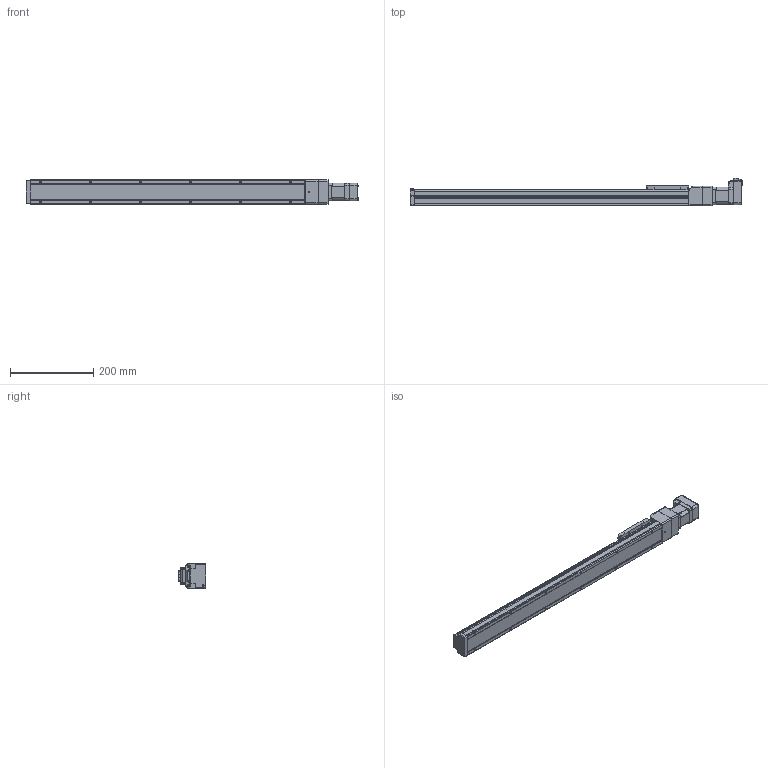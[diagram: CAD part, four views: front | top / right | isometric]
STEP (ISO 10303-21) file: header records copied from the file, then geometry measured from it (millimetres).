
FILE_DESCRIPTION (( 'STEP AP214' ), '1' );
FILE_NAME ('LEFS3(+)-25NM1Œû-550-17L.STEP', '2023-05-31T02:38:20', ( '' ), ( '' ), 'SwSTEP 2.0', 'SolidWorks 2019', '' );
FILE_SCHEMA (( 'AUTOMOTIVE_DESIGN' ));
Length unit declared in the file: millimetre
Products named in the file (5): LEFS3(+)-25NM1_MOTOR Flange; LEFS3(+)-25NM1_TABLE; CM3(+)-17L50A; LEFS3(+)-25NM1仩_BODY_550; LEFS3(+)-25NM1口-550-17L
Assembly tree (4 placements, depth 2):
  LEFS3(+)-25NM1口-550-17L
    LEFS3(+)-25NM1仩_BODY_550
    LEFS3(+)-25NM1_TABLE
    LEFS3(+)-25NM1_MOTOR Flange
    CM3(+)-17L50A
Bounding box: 797.3 x 66.75 x 58 mm (x, y, z)
Volume: 1565849.9 mm3; surface area: 198958.1 mm2
Topology: 5 solids, 5 shells, 1003 faces, 2590 edges, 1632 vertices
Faces by surface type: plane 513, cylinder 318, cone 83, torus 39, bspline 29, sphere 21
Entity records: 40676 total; most frequent: CARTESIAN_POINT 7416, ORIENTED_EDGE 5118, DIRECTION 4938, EDGE_CURVE 2559, AXIS2_PLACEMENT_3D 1666, VERTEX_POINT 1632, LINE 1606, VECTOR 1606
